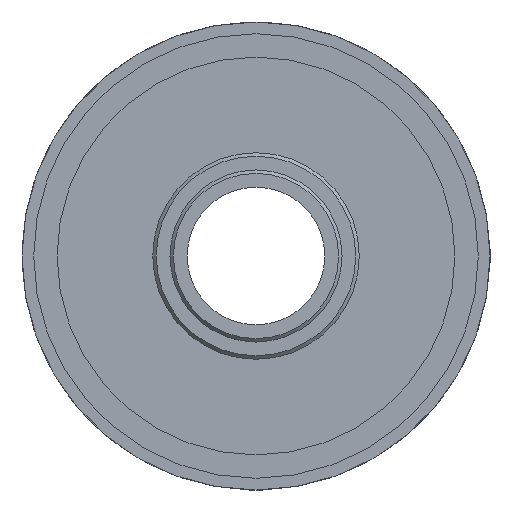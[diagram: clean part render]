
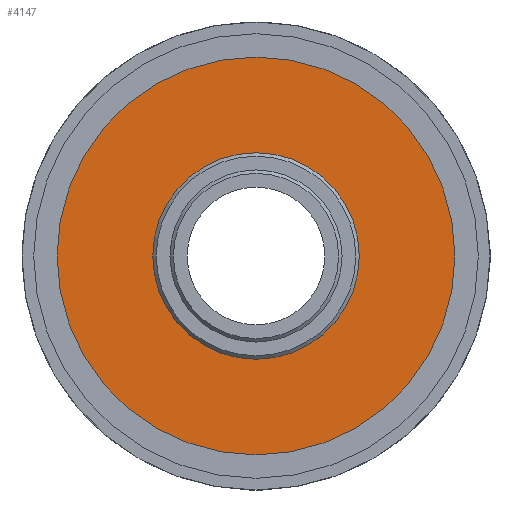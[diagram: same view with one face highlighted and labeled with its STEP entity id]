
A CAD part, left-side view. The second image highlights one B-rep face of the part: STEP entity #4147.
In plain terms, the highlighted planar face has unit normal (-1, 0, 0).
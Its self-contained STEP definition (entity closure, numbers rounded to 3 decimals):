
#290=FACE_BOUND('',#857,.T.);
#312=CIRCLE('',#4440,24.225);
#564=FACE_OUTER_BOUND('',#856,.T.);
#856=EDGE_LOOP('',(#2781));
#857=EDGE_LOOP('',(#2782,#2783,#2784,#2785,#2786,#2787,#2788,#2789,#2790,
#2791,#2792,#2793));
#1132=LINE('',#6226,#1408);
#1136=LINE('',#6234,#1412);
#1139=LINE('',#6240,#1415);
#1142=LINE('',#6246,#1418);
#1145=LINE('',#6252,#1421);
#1148=LINE('',#6258,#1424);
#1151=LINE('',#6264,#1427);
#1154=LINE('',#6270,#1430);
#1158=LINE('',#6278,#1434);
#1162=LINE('',#6287,#1438);
#1164=LINE('',#6290,#1440);
#1167=LINE('',#6294,#1443);
#1408=VECTOR('',#4926,0.363);
#1412=VECTOR('',#4932,10.058);
#1415=VECTOR('',#4937,0.363);
#1418=VECTOR('',#4942,10.058);
#1421=VECTOR('',#4947,0.363);
#1424=VECTOR('',#4952,10.058);
#1427=VECTOR('',#4957,0.363);
#1430=VECTOR('',#4962,10.058);
#1434=VECTOR('',#4968,0.363);
#1438=VECTOR('',#4974,0.363);
#1440=VECTOR('',#4978,10.058);
#1443=VECTOR('',#4983,10.058);
#1684=VERTEX_POINT('',#6224);
#1685=VERTEX_POINT('',#6225);
#1688=VERTEX_POINT('',#6233);
#1690=VERTEX_POINT('',#6239);
#1692=VERTEX_POINT('',#6245);
#1694=VERTEX_POINT('',#6251);
#1696=VERTEX_POINT('',#6257);
#1698=VERTEX_POINT('',#6263);
#1700=VERTEX_POINT('',#6269);
#1703=VERTEX_POINT('',#6277);
#1706=VERTEX_POINT('',#6284);
#1707=VERTEX_POINT('',#6286);
#1716=VERTEX_POINT('',#6320);
#2064=EDGE_CURVE('',#1684,#1685,#1132,.F.);
#2068=EDGE_CURVE('',#1688,#1685,#1136,.T.);
#2071=EDGE_CURVE('',#1688,#1690,#1139,.F.);
#2074=EDGE_CURVE('',#1692,#1690,#1142,.T.);
#2077=EDGE_CURVE('',#1692,#1694,#1145,.F.);
#2080=EDGE_CURVE('',#1696,#1694,#1148,.T.);
#2083=EDGE_CURVE('',#1696,#1698,#1151,.F.);
#2086=EDGE_CURVE('',#1700,#1698,#1154,.T.);
#2090=EDGE_CURVE('',#1700,#1703,#1158,.F.);
#2094=EDGE_CURVE('',#1706,#1707,#1162,.F.);
#2096=EDGE_CURVE('',#1706,#1703,#1164,.T.);
#2099=EDGE_CURVE('',#1684,#1707,#1167,.T.);
#2108=EDGE_CURVE('',#1716,#1716,#312,.T.);
#2781=ORIENTED_EDGE('',*,*,#2108,.F.);
#2782=ORIENTED_EDGE('',*,*,#2086,.T.);
#2783=ORIENTED_EDGE('',*,*,#2083,.F.);
#2784=ORIENTED_EDGE('',*,*,#2080,.T.);
#2785=ORIENTED_EDGE('',*,*,#2077,.F.);
#2786=ORIENTED_EDGE('',*,*,#2074,.T.);
#2787=ORIENTED_EDGE('',*,*,#2071,.F.);
#2788=ORIENTED_EDGE('',*,*,#2068,.T.);
#2789=ORIENTED_EDGE('',*,*,#2064,.F.);
#2790=ORIENTED_EDGE('',*,*,#2099,.T.);
#2791=ORIENTED_EDGE('',*,*,#2094,.F.);
#2792=ORIENTED_EDGE('',*,*,#2096,.T.);
#2793=ORIENTED_EDGE('',*,*,#2090,.F.);
#3999=PLANE('',#4442);
#4147=ADVANCED_FACE('',(#564,#290),#3999,.F.);
#4440=AXIS2_PLACEMENT_3D('',#6321,#5018,#5019);
#4442=AXIS2_PLACEMENT_3D('',#6324,#5022,#5023);
#4926=DIRECTION('',(0.,0.866,0.5));
#4932=DIRECTION('',(0.,1.,0.));
#4937=DIRECTION('',(0.,0.866,-0.5));
#4942=DIRECTION('',(0.,0.5,-0.866));
#4947=DIRECTION('',(0.,0.,-1.));
#4952=DIRECTION('',(0.,-0.5,-0.866));
#4957=DIRECTION('',(0.,-0.866,-0.5));
#4962=DIRECTION('',(0.,-1.,0.));
#4968=DIRECTION('',(0.,-0.866,0.5));
#4974=DIRECTION('',(0.,0.,1.));
#4978=DIRECTION('',(0.,-0.5,0.866));
#4983=DIRECTION('',(0.,0.5,0.866));
#5018=DIRECTION('center_axis',(1.,0.,0.));
#5019=DIRECTION('ref_axis',(0.,0.,-1.));
#5022=DIRECTION('center_axis',(1.,0.,0.));
#5023=DIRECTION('ref_axis',(0.,0.,-1.));
#6224=CARTESIAN_POINT('',(-0.825,5.344,-8.892));
#6225=CARTESIAN_POINT('',(-0.825,5.029,-9.074));
#6226=CARTESIAN_POINT('',(-0.825,5.186,-8.983));
#6233=CARTESIAN_POINT('',(-0.825,-5.029,-9.074));
#6234=CARTESIAN_POINT('',(-0.825,-2.619,-9.074));
#6239=CARTESIAN_POINT('',(-0.825,-5.344,-8.892));
#6240=CARTESIAN_POINT('',(-0.825,-5.186,-8.983));
#6245=CARTESIAN_POINT('',(-0.825,-10.373,-0.181));
#6246=CARTESIAN_POINT('',(-0.825,-9.168,-2.268));
#6251=CARTESIAN_POINT('',(-0.825,-10.373,0.181));
#6252=CARTESIAN_POINT('',(-0.825,-10.373,0.));
#6257=CARTESIAN_POINT('',(-0.825,-5.344,8.892));
#6258=CARTESIAN_POINT('',(-0.825,-6.548,6.805));
#6263=CARTESIAN_POINT('',(-0.825,-5.029,9.074));
#6264=CARTESIAN_POINT('',(-0.825,-5.186,8.983));
#6269=CARTESIAN_POINT('',(-0.825,5.029,9.074));
#6270=CARTESIAN_POINT('',(-0.825,2.619,9.074));
#6277=CARTESIAN_POINT('',(-0.825,5.344,8.892));
#6278=CARTESIAN_POINT('',(-0.825,5.186,8.983));
#6284=CARTESIAN_POINT('',(-0.825,10.373,0.181));
#6286=CARTESIAN_POINT('',(-0.825,10.373,-0.181));
#6287=CARTESIAN_POINT('',(-0.825,10.373,0.));
#6290=CARTESIAN_POINT('',(-0.825,9.168,2.268));
#6294=CARTESIAN_POINT('',(-0.825,6.548,-6.805));
#6320=CARTESIAN_POINT('',(-0.825,0.,24.225));
#6321=CARTESIAN_POINT('Origin',(-0.825,0.,0.));
#6324=CARTESIAN_POINT('Origin',(-0.825,0.,
0.));
